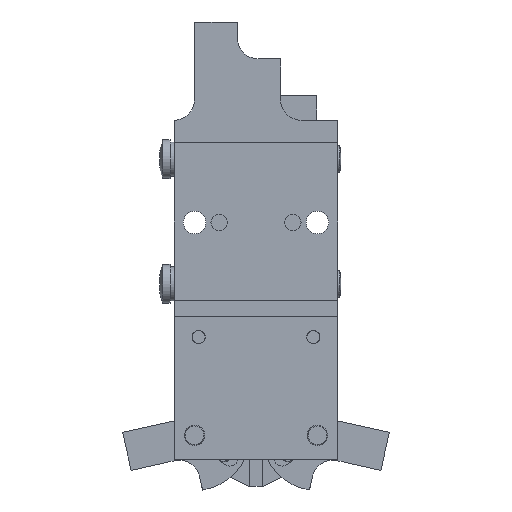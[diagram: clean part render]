
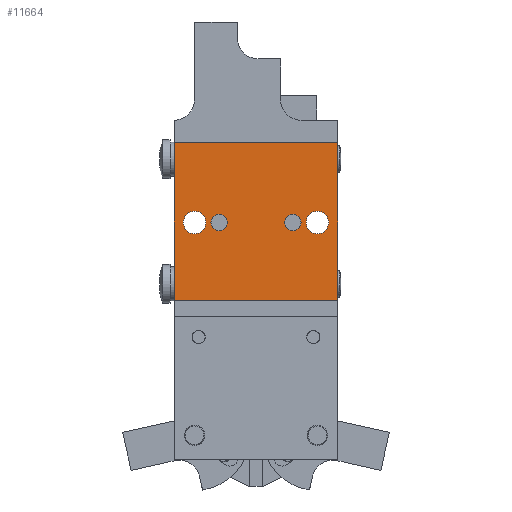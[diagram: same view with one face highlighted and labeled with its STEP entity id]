
A CAD part, left-side view. The second image highlights one B-rep face of the part: STEP entity #11664.
In plain terms, the highlighted planar face has unit normal (-1, 0, 0).
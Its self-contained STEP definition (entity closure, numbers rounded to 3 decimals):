
#344=FACE_BOUND('',#1740,.T.);
#345=FACE_BOUND('',#1741,.T.);
#346=FACE_BOUND('',#1742,.T.);
#347=FACE_BOUND('',#1743,.T.);
#589=PLANE('',#12638);
#1046=FACE_OUTER_BOUND('',#1739,.T.);
#1739=EDGE_LOOP('',(#8794,#8795,#8796,#8797));
#1740=EDGE_LOOP('',(#8798,#8799));
#1741=EDGE_LOOP('',(#8800,#8801));
#1742=EDGE_LOOP('',(#8802,#8803));
#1743=EDGE_LOOP('',(#8804,#8805));
#2610=LINE('',#18869,#3406);
#2614=LINE('',#18876,#3410);
#2617=LINE('',#18882,#3413);
#2619=LINE('',#18885,#3415);
#3406=VECTOR('',#14992,10.);
#3410=VECTOR('',#14998,10.);
#3413=VECTOR('',#15003,10.);
#3415=VECTOR('',#15007,10.);
#4002=CIRCLE('',#12562,2.);
#4003=CIRCLE('',#12563,2.);
#4006=CIRCLE('',#12568,2.);
#4007=CIRCLE('',#12569,2.);
#4010=CIRCLE('',#12574,2.75);
#4011=CIRCLE('',#12575,2.75);
#4013=CIRCLE('',#12578,2.75);
#4014=CIRCLE('',#12579,2.75);
#4961=VERTEX_POINT('',#18711);
#4962=VERTEX_POINT('',#18712);
#4965=VERTEX_POINT('',#18722);
#4966=VERTEX_POINT('',#18723);
#4969=VERTEX_POINT('',#18733);
#4970=VERTEX_POINT('',#18734);
#4972=VERTEX_POINT('',#18741);
#4973=VERTEX_POINT('',#18742);
#5020=VERTEX_POINT('',#18866);
#5021=VERTEX_POINT('',#18868);
#5023=VERTEX_POINT('',#18874);
#5025=VERTEX_POINT('',#18880);
#6327=EDGE_CURVE('',#4961,#4962,#4002,.T.);
#6328=EDGE_CURVE('',#4962,#4961,#4003,.T.);
#6332=EDGE_CURVE('',#4965,#4966,#4006,.T.);
#6333=EDGE_CURVE('',#4966,#4965,#4007,.T.);
#6337=EDGE_CURVE('',#4969,#4970,#4010,.T.);
#6338=EDGE_CURVE('',#4970,#4969,#4011,.T.);
#6341=EDGE_CURVE('',#4972,#4973,#4013,.T.);
#6342=EDGE_CURVE('',#4973,#4972,#4014,.T.);
#6400=EDGE_CURVE('',#5020,#5021,#2610,.T.);
#6404=EDGE_CURVE('',#5023,#5020,#2614,.T.);
#6407=EDGE_CURVE('',#5025,#5023,#2617,.T.);
#6409=EDGE_CURVE('',#5021,#5025,#2619,.T.);
#8794=ORIENTED_EDGE('',*,*,#6409,.F.);
#8795=ORIENTED_EDGE('',*,*,#6400,.F.);
#8796=ORIENTED_EDGE('',*,*,#6404,.F.);
#8797=ORIENTED_EDGE('',*,*,#6407,.F.);
#8798=ORIENTED_EDGE('',*,*,#6327,.T.);
#8799=ORIENTED_EDGE('',*,*,#6328,.T.);
#8800=ORIENTED_EDGE('',*,*,#6332,.T.);
#8801=ORIENTED_EDGE('',*,*,#6333,.T.);
#8802=ORIENTED_EDGE('',*,*,#6337,.T.);
#8803=ORIENTED_EDGE('',*,*,#6338,.T.);
#8804=ORIENTED_EDGE('',*,*,#6341,.T.);
#8805=ORIENTED_EDGE('',*,*,#6342,.T.);
#11664=ADVANCED_FACE('',(#1046,#344,#345,#346,#347),#589,.F.);
#12562=AXIS2_PLACEMENT_3D('',#18713,#14822,#14823);
#12563=AXIS2_PLACEMENT_3D('',#18714,#14824,#14825);
#12568=AXIS2_PLACEMENT_3D('',#18724,#14835,#14836);
#12569=AXIS2_PLACEMENT_3D('',#18725,#14837,#14838);
#12574=AXIS2_PLACEMENT_3D('',#18735,#14848,#14849);
#12575=AXIS2_PLACEMENT_3D('',#18736,#14850,#14851);
#12578=AXIS2_PLACEMENT_3D('',#18743,#14857,#14858);
#12579=AXIS2_PLACEMENT_3D('',#18744,#14859,#14860);
#12638=AXIS2_PLACEMENT_3D('',#18886,#15008,#15009);
#14822=DIRECTION('center_axis',(1.,0.,0.));
#14823=DIRECTION('ref_axis',(0.,-1.,0.));
#14824=DIRECTION('center_axis',(1.,0.,0.));
#14825=DIRECTION('ref_axis',(0.,-1.,0.));
#14835=DIRECTION('center_axis',(1.,0.,0.));
#14836=DIRECTION('ref_axis',(0.,-1.,0.));
#14837=DIRECTION('center_axis',(1.,0.,0.));
#14838=DIRECTION('ref_axis',(0.,-1.,0.));
#14848=DIRECTION('center_axis',(1.,0.,0.));
#14849=DIRECTION('ref_axis',(0.,-1.,0.));
#14850=DIRECTION('center_axis',(1.,0.,0.));
#14851=DIRECTION('ref_axis',(0.,-1.,0.));
#14857=DIRECTION('center_axis',(1.,0.,0.));
#14858=DIRECTION('ref_axis',(0.,-1.,0.));
#14859=DIRECTION('center_axis',(1.,0.,0.));
#14860=DIRECTION('ref_axis',(0.,-1.,0.));
#14992=DIRECTION('',(0.,0.,-1.));
#14998=DIRECTION('',(0.,-1.,0.));
#15003=DIRECTION('',(0.,0.,1.));
#15007=DIRECTION('',(0.,1.,0.));
#15008=DIRECTION('center_axis',(1.,0.,0.));
#15009=DIRECTION('ref_axis',(0.,0.,
1.));
#18711=CARTESIAN_POINT('',(-12.5,7.,58.));
#18712=CARTESIAN_POINT('',(-12.5,11.,58.));
#18713=CARTESIAN_POINT('Origin',(-12.5,9.,58.));
#18714=CARTESIAN_POINT('Origin',(-12.5,9.,58.));
#18722=CARTESIAN_POINT('',(-12.5,-11.,58.));
#18723=CARTESIAN_POINT('',(-12.5,-7.,58.));
#18724=CARTESIAN_POINT('Origin',(-12.5,-9.,58.));
#18725=CARTESIAN_POINT('Origin',(-12.5,-9.,58.));
#18733=CARTESIAN_POINT('',(-12.5,12.25,58.));
#18734=CARTESIAN_POINT('',(-12.5,17.75,58.));
#18735=CARTESIAN_POINT('Origin',(-12.5,15.,58.));
#18736=CARTESIAN_POINT('Origin',(-12.5,15.,58.));
#18741=CARTESIAN_POINT('',(-12.5,-17.75,58.));
#18742=CARTESIAN_POINT('',(-12.5,-12.25,58.));
#18743=CARTESIAN_POINT('Origin',(-12.5,-15.,58.));
#18744=CARTESIAN_POINT('Origin',(-12.5,-15.,58.));
#18866=CARTESIAN_POINT('',(-12.5,-20.,77.5));
#18868=CARTESIAN_POINT('',(-12.5,-20.,39.));
#18869=CARTESIAN_POINT('',(-12.5,-20.,77.5));
#18874=CARTESIAN_POINT('',(-12.5,20.,77.5));
#18876=CARTESIAN_POINT('',(-12.5,20.,77.5));
#18880=CARTESIAN_POINT('',(-12.5,20.,39.));
#18882=CARTESIAN_POINT('',(-12.5,20.,39.));
#18885=CARTESIAN_POINT('',(-12.5,-20.,39.));
#18886=CARTESIAN_POINT('Origin',(-12.5,0.,
58.25));
